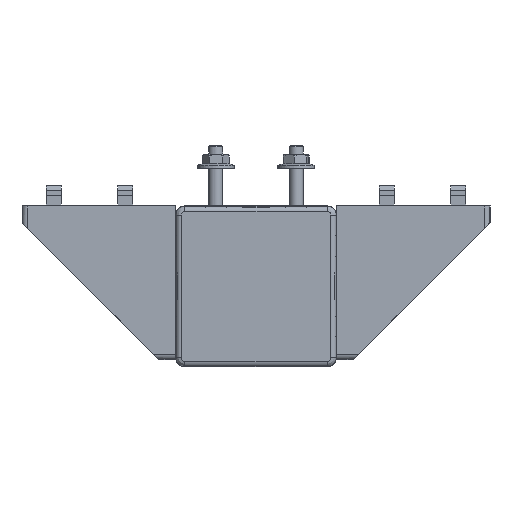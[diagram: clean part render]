
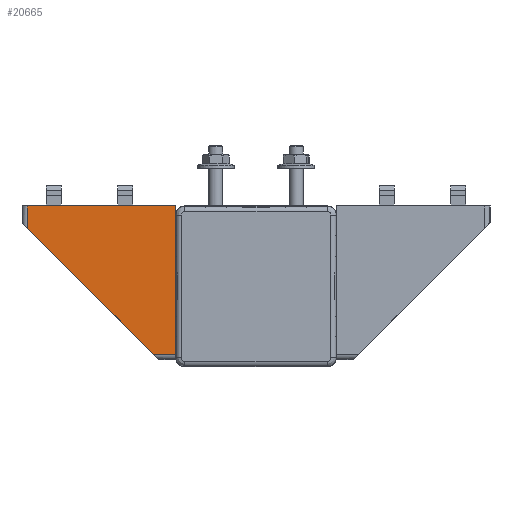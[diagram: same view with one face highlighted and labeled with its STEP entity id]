
A CAD part, left-side view. The second image highlights one B-rep face of the part: STEP entity #20665.
In plain terms, the highlighted planar face has unit normal (-1, 0, 0).
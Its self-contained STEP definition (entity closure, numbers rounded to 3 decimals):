
#387 = EDGE_CURVE ( 'NONE', #11216, #41709, #48993, .T. ) ;
#736 = LINE ( 'NONE', #17905, #32612 ) ;
#2495 = EDGE_CURVE ( 'NONE', #41917, #11216, #47552, .T. ) ;
#2962 = ORIENTED_EDGE ( 'NONE', *, *, #2495, .F. ) ;
#4483 = CARTESIAN_POINT ( 'NONE',  ( -832.75, 45., 45. ) ) ;
#5924 = DIRECTION ( 'NONE',  ( 0., 0., -1. ) ) ;
#6196 = CARTESIAN_POINT ( 'NONE',  ( -832.75, 128., 32.5 ) ) ;
#11216 = VERTEX_POINT ( 'NONE', #34789 ) ;
#12623 = LINE ( 'NONE', #46988, #30416 ) ;
#13681 = DIRECTION ( 'NONE',  ( 0., -0.707, -0.707 ) ) ;
#14827 = ORIENTED_EDGE ( 'NONE', *, *, #16323, .T. ) ;
#16323 = EDGE_CURVE ( 'NONE', #41917, #33260, #25961, .T. ) ;
#16994 = VECTOR ( 'NONE', #52166, 1000. ) ;
#17765 = CARTESIAN_POINT ( 'NONE',  ( -832.75, 45., 45. ) ) ;
#17905 = CARTESIAN_POINT ( 'NONE',  ( -832.75, 128., 32.5 ) ) ;
#19877 = EDGE_CURVE ( 'NONE', #52569, #41709, #12623, .T. ) ;
#20665 = ADVANCED_FACE ( 'NONE', ( #20950 ), #39128, .T. ) ;
#20674 = AXIS2_PLACEMENT_3D ( 'NONE', #17765, #34910, #52401 ) ;
#20950 = FACE_OUTER_BOUND ( 'NONE', #51306, .T. ) ;
#22608 = VECTOR ( 'NONE', #52608, 1000. ) ;
#23129 = ORIENTED_EDGE ( 'NONE', *, *, #387, .F. ) ;
#25961 = LINE ( 'NONE', #52718, #16994 ) ;
#30416 = VECTOR ( 'NONE', #38495, 1000. ) ;
#32612 = VECTOR ( 'NONE', #13681, 1000. ) ;
#33260 = VERTEX_POINT ( 'NONE', #6196 ) ;
#34789 = CARTESIAN_POINT ( 'NONE',  ( -832.75, 45., 45. ) ) ;
#34910 = DIRECTION ( 'NONE',  ( -1., 0., 0. ) ) ;
#35711 = CARTESIAN_POINT ( 'NONE',  ( -832.75, 45., -38. ) ) ;
#38495 = DIRECTION ( 'NONE',  ( 0., -1., 0. ) ) ;
#39128 = PLANE ( 'NONE',  #20674 ) ;
#41605 = CARTESIAN_POINT ( 'NONE',  ( -832.75, 128., 45. ) ) ;
#41709 = VERTEX_POINT ( 'NONE', #35711 ) ;
#41917 = VERTEX_POINT ( 'NONE', #41605 ) ;
#43303 = CARTESIAN_POINT ( 'NONE',  ( -832.75, 57.5, -38. ) ) ;
#46988 = CARTESIAN_POINT ( 'NONE',  ( -832.75, 45., -38. ) ) ;
#47552 = LINE ( 'NONE', #4483, #22608 ) ;
#48993 = LINE ( 'NONE', #53485, #55522 ) ;
#49569 = ORIENTED_EDGE ( 'NONE', *, *, #52004, .T. ) ;
#51306 = EDGE_LOOP ( 'NONE', ( #2962, #14827, #49569, #52921, #23129 ) ) ;
#52004 = EDGE_CURVE ( 'NONE', #33260, #52569, #736, .T. ) ;
#52166 = DIRECTION ( 'NONE',  ( 0., 0., -1. ) ) ;
#52401 = DIRECTION ( 'NONE',  ( 0., 0., -1. ) ) ;
#52569 = VERTEX_POINT ( 'NONE', #43303 ) ;
#52608 = DIRECTION ( 'NONE',  ( 0., -1., 0. ) ) ;
#52718 = CARTESIAN_POINT ( 'NONE',  ( -832.75, 128., 45. ) ) ;
#52921 = ORIENTED_EDGE ( 'NONE', *, *, #19877, .T. ) ;
#53485 = CARTESIAN_POINT ( 'NONE',  ( -832.75, 45., -41. ) ) ;
#55522 = VECTOR ( 'NONE', #5924, 1000. ) ;
